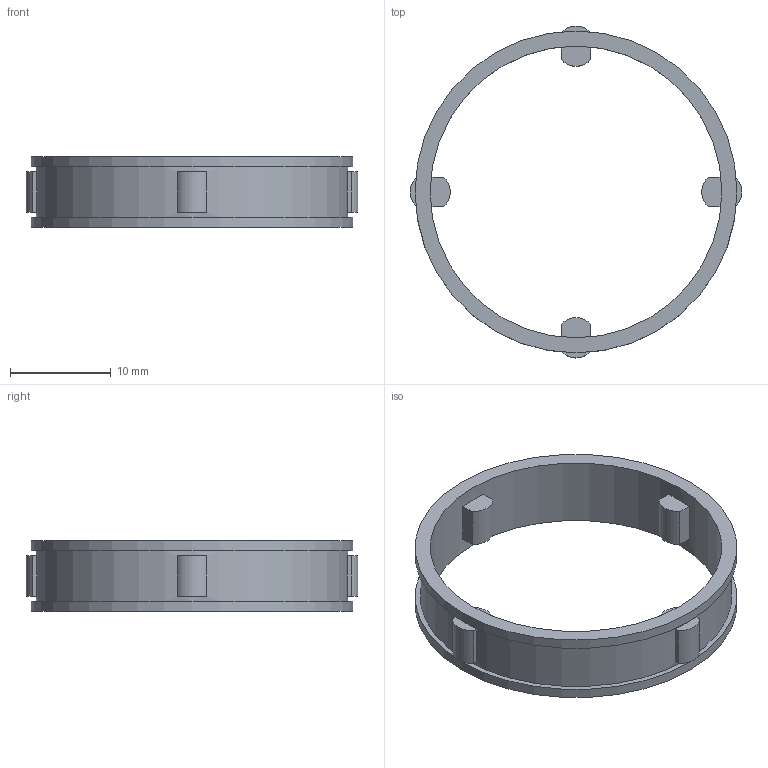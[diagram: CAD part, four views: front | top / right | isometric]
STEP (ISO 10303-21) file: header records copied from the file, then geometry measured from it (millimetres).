
FILE_DESCRIPTION(/* description */ (''),/* implementation_level */ '2;1');
FILE_NAME(/* name */ '300446 FE 433 Z2.stp',/* time_stamp */ '2016-11-03T14:02:31+01:00',/* author */ (''),/* organization */ (''),/* preprocessor_version */ 'ST-DEVELOPER v15',/* originating_system */ 'SIEMENS PLM Software NX 8.5',/* authorisation */ '');
FILE_SCHEMA (('CONFIG_CONTROL_DESIGN'));
Length unit declared in the file: millimetre
Products named in the file (1): ATE0000079_01
Bounding box: 33 x 33 x 7 mm (x, y, z)
Volume: 881.1 mm3; surface area: 1839.4 mm2
Topology: 1 solids, 1 shells, 48 faces, 114 edges, 76 vertices
Faces by surface type: plane 36, cylinder 12
Full cylindrical faces by diameter (mm): 29 x1, 31 x1, 32 x2
Entity records: 1420 total; most frequent: DIRECTION 242, CARTESIAN_POINT 225, ORIENTED_EDGE 208, EDGE_CURVE 104, AXIS2_PLACEMENT_3D 89, VERTEX_POINT 72, LINE 64, VECTOR 64
